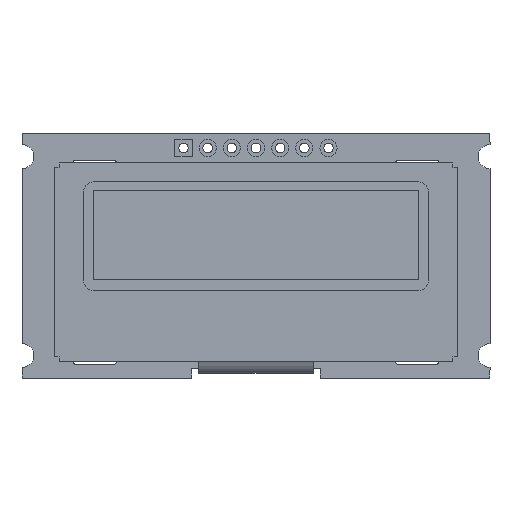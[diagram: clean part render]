
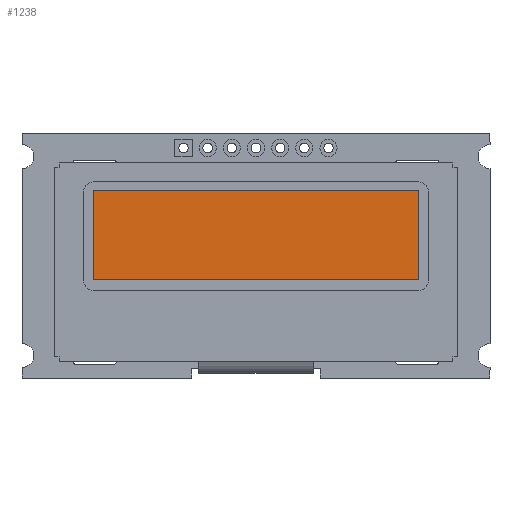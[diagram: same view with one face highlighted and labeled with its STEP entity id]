
A CAD part, top view. The second image highlights one B-rep face of the part: STEP entity #1238.
In plain terms, the highlighted planar face has unit normal (0, 0, 1).
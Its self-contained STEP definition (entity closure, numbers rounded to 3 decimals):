
#25 = EDGE_CURVE ( 'NONE', #8354, #1936, #1706, .T. ) ;
#252 = CARTESIAN_POINT ( 'NONE',  ( 17.11, 6.9, 2.8 ) ) ;
#702 = VECTOR ( 'NONE', #6625, 1000. ) ;
#1238 = ADVANCED_FACE ( 'NONE', ( #7684 ), #3789, .T. ) ;
#1386 = DIRECTION ( 'NONE',  ( -1., 0., 0. ) ) ;
#1446 = VECTOR ( 'NONE', #1386, 1000. ) ;
#1693 = EDGE_CURVE ( 'NONE', #1936, #7492, #6765, .T. ) ;
#1706 = LINE ( 'NONE', #252, #3537 ) ;
#1936 = VERTEX_POINT ( 'NONE', #6669 ) ;
#1949 = CARTESIAN_POINT ( 'NONE',  ( -17.11, -2.5, 2.8 ) ) ;
#2130 = EDGE_CURVE ( 'NONE', #4171, #8354, #2484, .T. ) ;
#2257 = VECTOR ( 'NONE', #3132, 1000. ) ;
#2408 = CARTESIAN_POINT ( 'NONE',  ( 0., 0., 2.8 ) ) ;
#2484 = LINE ( 'NONE', #7260, #2257 ) ;
#3132 = DIRECTION ( 'NONE',  ( 1., 0., 0. ) ) ;
#3537 = VECTOR ( 'NONE', #6332, 1000. ) ;
#3789 = PLANE ( 'NONE',  #7200 ) ;
#3846 = CARTESIAN_POINT ( 'NONE',  ( -17.11, 6.9, 2.8 ) ) ;
#3885 = DIRECTION ( 'NONE',  ( 0., 0., 1. ) ) ;
#4171 = VERTEX_POINT ( 'NONE', #1949 ) ;
#5157 = EDGE_CURVE ( 'NONE', #7492, #4171, #6204, .T. ) ;
#5333 = ORIENTED_EDGE ( 'NONE', *, *, #2130, .T. ) ;
#5934 = CARTESIAN_POINT ( 'NONE',  ( -17.11, 6.9, 2.8 ) ) ;
#5988 = DIRECTION ( 'NONE',  ( 1., 0., 0. ) ) ;
#6204 = LINE ( 'NONE', #5934, #702 ) ;
#6332 = DIRECTION ( 'NONE',  ( 0., 1., 0. ) ) ;
#6532 = ORIENTED_EDGE ( 'NONE', *, *, #25, .T. ) ;
#6625 = DIRECTION ( 'NONE',  ( 0., -1., 0. ) ) ;
#6669 = CARTESIAN_POINT ( 'NONE',  ( 17.11, 6.9, 2.8 ) ) ;
#6765 = LINE ( 'NONE', #6954, #1446 ) ;
#6954 = CARTESIAN_POINT ( 'NONE',  ( -17.11, 6.9, 2.8 ) ) ;
#7059 = EDGE_LOOP ( 'NONE', ( #7688, #5333, #6532, #8307 ) ) ;
#7200 = AXIS2_PLACEMENT_3D ( 'NONE', #2408, #3885, #5988 ) ;
#7260 = CARTESIAN_POINT ( 'NONE',  ( -17.11, -2.5, 2.8 ) ) ;
#7492 = VERTEX_POINT ( 'NONE', #3846 ) ;
#7684 = FACE_OUTER_BOUND ( 'NONE', #7059, .T. ) ;
#7688 = ORIENTED_EDGE ( 'NONE', *, *, #5157, .T. ) ;
#8307 = ORIENTED_EDGE ( 'NONE', *, *, #1693, .T. ) ;
#8354 = VERTEX_POINT ( 'NONE', #8374 ) ;
#8374 = CARTESIAN_POINT ( 'NONE',  ( 17.11, -2.5, 2.8 ) ) ;
